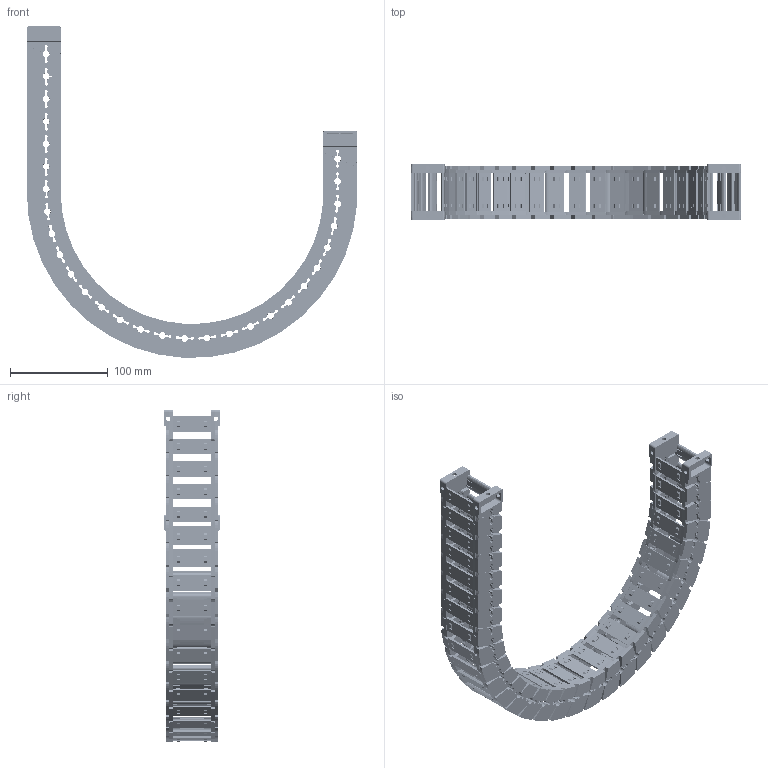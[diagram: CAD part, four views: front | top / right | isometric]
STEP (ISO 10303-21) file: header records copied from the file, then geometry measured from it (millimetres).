
FILE_DESCRIPTION((''),'2;1');
FILE_NAME('JY-28X38-R150_ASM','2026-03-25T20:47:28',('admin'),(''),'CREO PARAMETRIC BY PTC INC, 2021023','CREO PARAMETRIC BY PTC INC, 2021023','');
FILE_SCHEMA(('CONFIG_CONTROL_DESIGN'));
Length unit declared in the file: millimetre
Products named in the file (11): 28XL-L; 25-35XL-YP; 28XL-R; ASM0001_ASM; 28-LTT-A-L; 28-LTT-A-R; 28XL-LTT-A_ASM; 28-LTT-B-L; 28-LTT-B-R; 28XL-LTT-B_ASM; JY-28X38-R150_ASM
Assembly tree (42 placements, depth 3):
  JY-28X38-R150_ASM
    ASM0001_ASM  x28
      28XL-L
      25-35XL-YP
      28XL-R
    28XL-LTT-A_ASM
      28-LTT-A-L
      25-35XL-YP  x2
      28-LTT-A-R
    28XL-LTT-B_ASM
      28-LTT-B-L
      25-35XL-YP  x2
      28-LTT-B-R
Bounding box: 337.23 x 57.5 x 338.94 mm (x, y, z)
Volume: 419938 mm3; surface area: 305337.6 mm2
Topology: 120 solids, 120 shells, 9750 faces, 28988 edges, 19358 vertices
Faces by surface type: plane 6392, cone 1766, cylinder 1394, bspline 198
Entity records: 29175 total; most frequent: CARTESIAN_POINT 9500, ORIENTED_EDGE 4352, DIRECTION 3675, EDGE_CURVE 2176, VERTEX_POINT 1454, VECTOR 1365, LINE 1365, AXIS2_PLACEMENT_3D 1155
